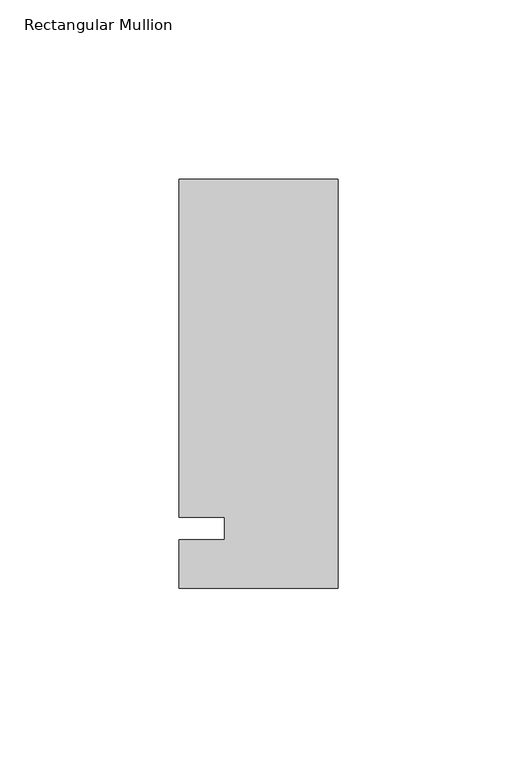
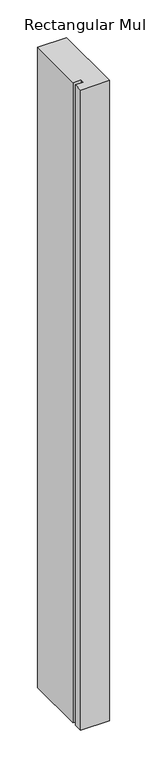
"""IFC4 building model written with IfcOpenShell, lengths in millimetres: member geometry, Rectangular Mullion : Kawneer-TRIFAB_VG_450_BACK_SB_Head."""

from ifc_helpers import new_model, si_unit, frame, origin, place, context, project, spatial, polyline, outline, extrude, source, transform, mapped, element, save


def rectangular_mullion_1fe92667(model_context):
    return source(origin(), model_context, "Body", "SweptSolid", [
        extrude(outline(polyline([(-44.45, -16.66875), (-44.45, -3.175), (-31.7482296, -3.175), (-31.7482296, 3.175), (-44.45, 3.175), (-44.45, 97.63125), (0.0, 97.63125), (0.0, -16.66875), (-44.45, -16.66875)])), frame((0.0, 0.0, -1038.0919461), z_axis=(0.0, 0.0, 1.0), x_axis=(1.0, 0.0, 0.0)), (0.0, 0.0, 1.0), 1038.0919461),
    ])


if __name__ == "__main__":
    model = new_model("IFC4")
    model_context = context("Model", 3, world=origin())
    ifc_project = project(units=[si_unit("LENGTHUNIT", "METRE", prefix="MILLI")], contexts=[model_context])
    site = spatial("IfcSite", under=ifc_project)
    building = spatial("IfcBuilding", under=site)
    placement = place(None, origin())
    rectangular_mullion_shape = rectangular_mullion_1fe92667(model_context)
    element("IfcMember", 1, ObjectType="Rectangular Mullion : Kawneer-TRIFAB_VG_450_BACK_SB_Head", at=placement, inside=building, context=model_context, shape_type="MappedRepresentation", body=[
        mapped(rectangular_mullion_shape, transform((0.0, 0.0, 0.0), x_axis=(1.0, 0.0, 0.0), y_axis=(0.0, 1.0, 0.0), z_axis=(0.0, 0.0, 1.0))),
    ])
    save(model, "model.ifc")
